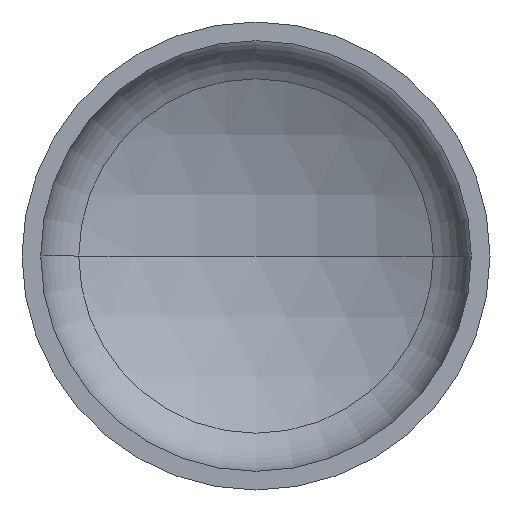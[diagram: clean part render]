
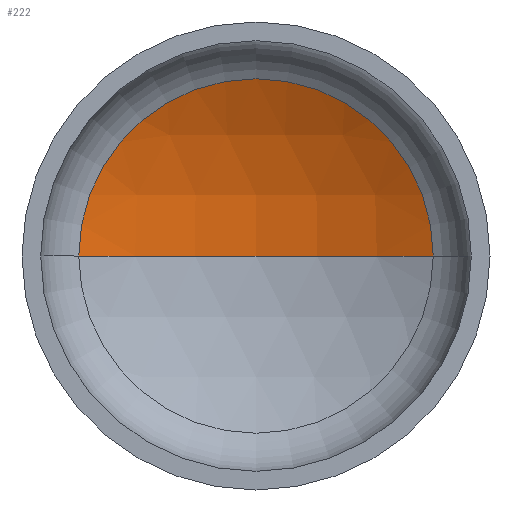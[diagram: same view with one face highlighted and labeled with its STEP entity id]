
A CAD part, front view. The second image highlights one B-rep face of the part: STEP entity #222.
In plain terms, the highlighted spherical face has radius 880 mm.
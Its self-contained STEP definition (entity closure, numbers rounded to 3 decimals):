
#12 = DIRECTION ( 'NONE',  ( -1., 0., 0. ) ) ;
#16 = DIRECTION ( 'NONE',  ( 0., 0., -1. ) ) ;
#21 = CARTESIAN_POINT ( 'NONE',  ( 0., -485.463, 0. ) ) ;
#22 = EDGE_LOOP ( 'NONE', ( #115, #111, #65 ) ) ;
#24 = VERTEX_POINT ( 'NONE', #303 ) ;
#30 = AXIS2_PLACEMENT_3D ( 'NONE', #246, #221, #186 ) ;
#37 = AXIS2_PLACEMENT_3D ( 'NONE', #209, #210, #230 ) ;
#38 = AXIS2_PLACEMENT_3D ( 'NONE', #21, #16, #12 ) ;
#39 = AXIS2_PLACEMENT_3D ( 'NONE', #216, #203, #204 ) ;
#51 = VERTEX_POINT ( 'NONE', #261 ) ;
#65 = ORIENTED_EDGE ( 'NONE', *, *, #91, .T. ) ;
#91 = EDGE_CURVE ( 'NONE', #51, #116, #228, .T. ) ;
#111 = ORIENTED_EDGE ( 'NONE', *, *, #141, .T. ) ;
#115 = ORIENTED_EDGE ( 'NONE', *, *, #158, .F. ) ;
#116 = VERTEX_POINT ( 'NONE', #326 ) ;
#141 = EDGE_CURVE ( 'NONE', #24, #51, #287, .T. ) ;
#158 = EDGE_CURVE ( 'NONE', #24, #116, #214, .T. ) ;
#186 = DIRECTION ( 'NONE',  ( -1., 0., 0. ) ) ;
#203 = DIRECTION ( 'NONE',  ( 0., -1., 0. ) ) ;
#204 = DIRECTION ( 'NONE',  ( 1., 0., 0. ) ) ;
#206 = SPHERICAL_SURFACE ( 'NONE', #30, 880. ) ;
#209 = CARTESIAN_POINT ( 'NONE',  ( 0., -485.463, 0. ) ) ;
#210 = DIRECTION ( 'NONE',  ( 0., 0., 1. ) ) ;
#214 = CIRCLE ( 'NONE', #37, 880. ) ;
#216 = CARTESIAN_POINT ( 'NONE',  ( 0., 289.759, 0. ) ) ;
#221 = DIRECTION ( 'NONE',  ( 0., 0., -1. ) ) ;
#222 = ADVANCED_FACE ( 'NONE', ( #343 ), #206, .F. ) ;
#228 = CIRCLE ( 'NONE', #39, 416.451 ) ;
#230 = DIRECTION ( 'NONE',  ( 1., 0., 0. ) ) ;
#246 = CARTESIAN_POINT ( 'NONE',  ( 0., -485.463, 0. ) ) ;
#261 = CARTESIAN_POINT ( 'NONE',  ( 416.451, 289.759, 0. ) ) ;
#287 = CIRCLE ( 'NONE', #38, 880. ) ;
#303 = CARTESIAN_POINT ( 'NONE',  ( 0., 394.537, 0. ) ) ;
#326 = CARTESIAN_POINT ( 'NONE',  ( -416.451, 289.759, 0. ) ) ;
#343 = FACE_OUTER_BOUND ( 'NONE', #22, .T. ) ;
